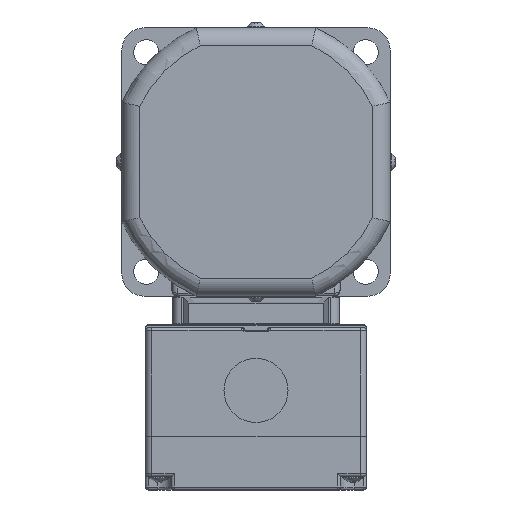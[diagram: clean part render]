
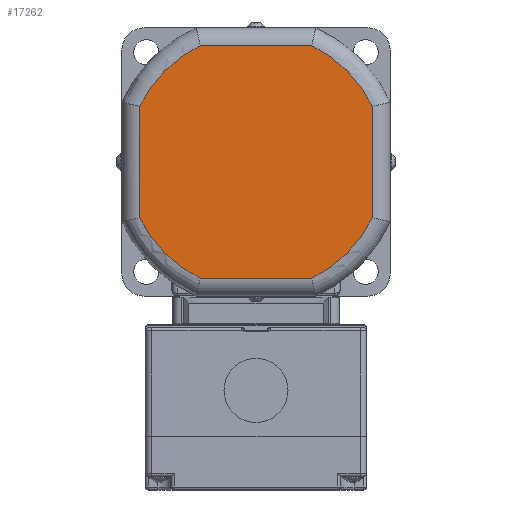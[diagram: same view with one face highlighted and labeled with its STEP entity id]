
A CAD part, left-side view. The second image highlights one B-rep face of the part: STEP entity #17262.
In plain terms, the highlighted planar face has unit normal (-1, 0, 0).
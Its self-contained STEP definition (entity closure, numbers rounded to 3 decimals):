
#1527=CIRCLE('',#18838,43.25);
#1528=CIRCLE('',#18839,43.25);
#1529=CIRCLE('',#18840,43.25);
#1530=CIRCLE('',#18841,43.25);
#2435=FACE_OUTER_BOUND('',#3496,.T.);
#3496=EDGE_LOOP('',(#14551,#14552,#14553,#14554,#14555,#14556,#14557,#14558));
#4940=LINE('',#30599,#6316);
#4941=LINE('',#30603,#6317);
#4942=LINE('',#30607,#6318);
#4943=LINE('',#30611,#6319);
#6316=VECTOR('',#23200,37.393);
#6317=VECTOR('',#23203,37.393);
#6318=VECTOR('',#23206,37.393);
#6319=VECTOR('',#23209,37.393);
#7831=VERTEX_POINT('',#30597);
#7832=VERTEX_POINT('',#30598);
#7833=VERTEX_POINT('',#30600);
#7834=VERTEX_POINT('',#30602);
#7835=VERTEX_POINT('',#30604);
#7836=VERTEX_POINT('',#30606);
#7837=VERTEX_POINT('',#30608);
#7838=VERTEX_POINT('',#30610);
#10112=EDGE_CURVE('',#7831,#7832,#4940,.T.);
#10113=EDGE_CURVE('',#7833,#7831,#1527,.T.);
#10114=EDGE_CURVE('',#7834,#7833,#4941,.T.);
#10115=EDGE_CURVE('',#7835,#7834,#1528,.T.);
#10116=EDGE_CURVE('',#7836,#7835,#4942,.T.);
#10117=EDGE_CURVE('',#7837,#7836,#1529,.T.);
#10118=EDGE_CURVE('',#7838,#7837,#4943,.T.);
#10119=EDGE_CURVE('',#7832,#7838,#1530,.T.);
#14551=ORIENTED_EDGE('',*,*,#10112,.F.);
#14552=ORIENTED_EDGE('',*,*,#10113,.F.);
#14553=ORIENTED_EDGE('',*,*,#10114,.F.);
#14554=ORIENTED_EDGE('',*,*,#10115,.F.);
#14555=ORIENTED_EDGE('',*,*,#10116,.F.);
#14556=ORIENTED_EDGE('',*,*,#10117,.F.);
#14557=ORIENTED_EDGE('',*,*,#10118,.F.);
#14558=ORIENTED_EDGE('',*,*,#10119,.F.);
#15471=PLANE('',#18837);
#17262=ADVANCED_FACE('',(#2435),#15471,.F.);
#18837=AXIS2_PLACEMENT_3D('',#30596,#23198,#23199);
#18838=AXIS2_PLACEMENT_3D('',#30601,#23201,#23202);
#18839=AXIS2_PLACEMENT_3D('',#30605,#23204,#23205);
#18840=AXIS2_PLACEMENT_3D('',#30609,#23207,#23208);
#18841=AXIS2_PLACEMENT_3D('',#30612,#23210,#23211);
#23198=DIRECTION('center_axis',(1.,0.,0.));
#23199=DIRECTION('ref_axis',(0.,0.,-1.));
#23200=DIRECTION('',(0.,0.,1.));
#23201=DIRECTION('center_axis',(1.,0.,0.));
#23202=DIRECTION('ref_axis',(0.,0.707,-0.707));
#23203=DIRECTION('',(0.,1.,0.));
#23204=DIRECTION('center_axis',(1.,0.,0.));
#23205=DIRECTION('ref_axis',(0.,-0.707,-0.707));
#23206=DIRECTION('',(0.,0.,-1.));
#23207=DIRECTION('center_axis',(1.,0.,0.));
#23208=DIRECTION('ref_axis',(0.,-0.707,0.707));
#23209=DIRECTION('',(0.,-1.,0.));
#23210=DIRECTION('center_axis',(1.,0.,0.));
#23211=DIRECTION('ref_axis',(0.,0.707,0.707));
#30596=CARTESIAN_POINT('Origin',(-17.8,0.,
0.));
#30597=CARTESIAN_POINT('',(-17.8,39.,-18.697));
#30598=CARTESIAN_POINT('',(-17.8,39.,18.697));
#30599=CARTESIAN_POINT('',(-17.8,39.,-18.697));
#30600=CARTESIAN_POINT('',(-17.8,18.697,-39.));
#30601=CARTESIAN_POINT('Origin',(-17.8,0.,
0.));
#30602=CARTESIAN_POINT('',(-17.8,-18.697,-39.));
#30603=CARTESIAN_POINT('',(-17.8,-18.697,-39.));
#30604=CARTESIAN_POINT('',(-17.8,-39.,-18.697));
#30605=CARTESIAN_POINT('Origin',(-17.8,0.,
0.));
#30606=CARTESIAN_POINT('',(-17.8,-39.,18.697));
#30607=CARTESIAN_POINT('',(-17.8,-39.,18.697));
#30608=CARTESIAN_POINT('',(-17.8,-18.697,39.));
#30609=CARTESIAN_POINT('Origin',(-17.8,0.,
0.));
#30610=CARTESIAN_POINT('',(-17.8,18.697,39.));
#30611=CARTESIAN_POINT('',(-17.8,18.697,39.));
#30612=CARTESIAN_POINT('Origin',(-17.8,0.,
0.));
